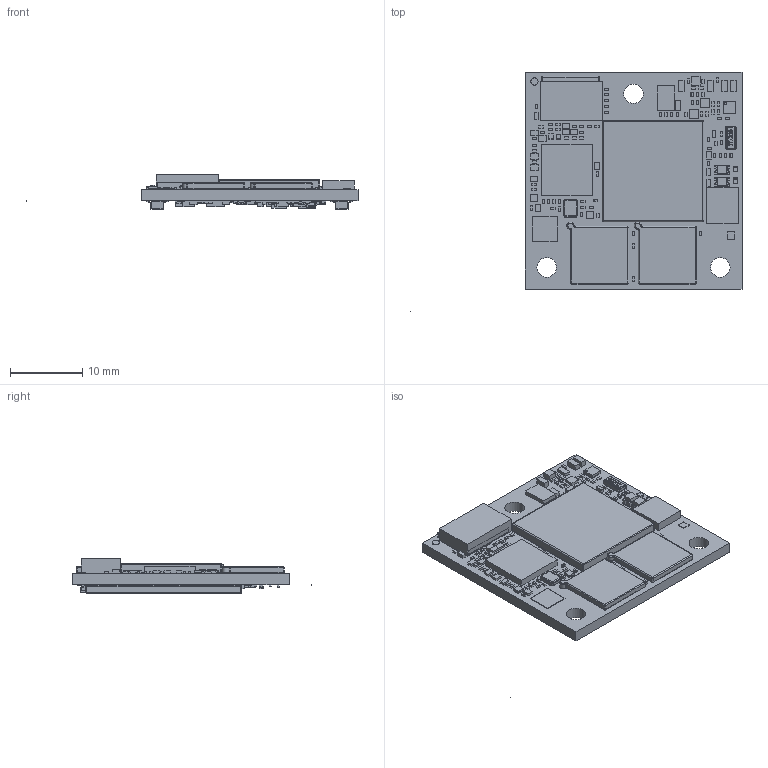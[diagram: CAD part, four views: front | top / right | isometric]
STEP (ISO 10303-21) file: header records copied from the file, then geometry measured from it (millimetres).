
FILE_DESCRIPTION(('STEP AP214'),'1');
FILE_NAME('Board1_BoardAndModels.step','2022-03-04T13:13:29',(' '),(' '),'Spatial InterOp 3D','XD3DPlugin XRACreate',' ');
FILE_SCHEMA(('automotive_design'));
Length unit declared in the file: millimetre
Products named in the file (184): Submodel-N:\GROUP\DEVELOP\HARDWARE\PCM-073_phyCORE-i.MXRT1170\Hardware\Schematics\006\PCB\Layout\3D\Input_S\0201YC101KAZ2A.xtd; 0201YC101KAZ2A; Submodel-CAP3033_part_simplified_0201; DesignRootModel; Submodel-N:\GROUP\DEVELOP\HARDWARE\PCM-073_phyCORE-i.MXRT1170\Hardware\Schematics\006\PCB\Layout\3D\Input_S\JUMP343.xtd; JUMP343; Submodel-JUMP343_part_simplified_J1X3-0201; Submodel-N:\GROUP\DEVELOP\HARDWARE\PCM-073_phyCORE-i.MXRT1170\Hardware\Schematics\006\PCB\Layout\3D\Input_S\CRCW020110R7JNEF.xtd; CRCW020110R7JNEF; Submodel-RES5813_part_simplified_0201; Submodel-N:\GROUP\DEVELOP\HARDWARE\PCM-073_phyCORE-i.MXRT1170\Hardware\Schematics\006\PCB\Layout\3D\Input_S\C0402C270F5GAC_0.xtd; C0402C270F5GAC_0; Submodel-CAP1313_part_simplified_0402-C3; Submodel-N:\GROUP\DEVELOP\HARDWARE\PCM-073_phyCORE-i.MXRT1170\Hardware\Schematics\006\PCB\Layout\3D\Input_S\DIODE1713.xtd; DIODE1713; Submodel-DIODE1713_part_simplified_0201-WLL; Submodel-CAP3713_part_simplified_0201; Submodel-N:\GROUP\DEVELOP\HARDWARE\PCM-073_phyCORE-i.MXRT1170\Hardware\Schematics\006\PCB\Layout\3D\Input_S\GMC10X7R104K100NT.xtd; GMC10X7R104K100NT; Submodel-CAP2603_part_simplified_0603-C3; Submodel-N:\GROUP\DEVELOP\HARDWARE\PCM-073_phyCORE-i.MXRT1170\Hardware\Schematics\006\PCB\Layout\3D\Input_S\RC0603F1005CS.xtd; RC0603F1005CS; Submodel-RES5803_part_simplified_0201; Submodel-N:\GROUP\DEVELOP\HARDWARE\PCM-073_phyCORE-i.MXRT1170\Hardware\Schematics\006\PCB\Layout\3D\Input_S\REMOVE_MECH243.xtd; REMOVE_MECH243; Submodel-MECH243_part_simplified_Fiducial-square; Submodel-RES5673_part_simplified_0201; Submodel-N:\GROUP\DEVELOP\HARDWARE\PCM-073_phyCORE-i.MXRT1170\Hardware\Schematics\006\PCB\Layout\3D\Input_S\TRANSISTOR932.xtd; TRANSISTOR932; Submodel-TRANSISTOR932_part_simplified_DFN-0806-3; Submodel-N:\GROUP\DEVELOP\HARDWARE\PCM-073_phyCORE-i.MXRT1170\Hardware\Schematics\006\PCB\Layout\3D\Input_S\BLM15BD471SN1D.xtd; BLM15BD471SN1D; Submodel-FILTER92_part_simplified_0402-C3; Submodel-RES5643_part_simplified_0201; Submodel-N:\GROUP\DEVELOP\HARDWARE\PCM-073_phyCORE-i.MXRT1170\Hardware\Schematics\006\PCB\Layout\3D\Input_S\REMOVE_MECH233.xtd; REMOVE_MECH233; Submodel-MECH233_part_simplified_Fiducial-round; Submodel-RES5693_part_simplified_0201; Submodel-N:\GROUP\DEVELOP\HARDWARE\PCM-073_phyCORE-i.MXRT1170\Hardware\Schematics\006\PCB\Layout\3D\Input_S\ICGEN3633.xtd; ICGEN3633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
Assembly tree (497 placements, depth 6):
  Board1_BoardAndModels
    DesignRootModel
      Submodel-CAP3033_part_simplified_0201  x5
        Submodel-N:\GROUP\DEVELOP\HARDWARE\PCM-073_phyCORE-i.MXRT1170\Hardware\Schematics\006\PCB\Layout\3D\Input_S\0201YC101KAZ2A.xtd
          0201YC101KAZ2A
      Submodel-JUMP343_part_simplified_J1X3-0201  x10
        Submodel-N:\GROUP\DEVELOP\HARDWARE\PCM-073_phyCORE-i.MXRT1170\Hardware\Schematics\006\PCB\Layout\3D\Input_S\JUMP343.xtd
          JUMP343
      Submodel-RES5813_part_simplified_0201
        Submodel-N:\GROUP\DEVELOP\HARDWARE\PCM-073_phyCORE-i.MXRT1170\Hardware\Schematics\006\PCB\Layout\3D\Input_S\CRCW020110R7JNEF.xtd
          CRCW020110R7JNEF
      Submodel-CAP1313_part_simplified_0402-C3  x16
        Submodel-N:\GROUP\DEVELOP\HARDWARE\PCM-073_phyCORE-i.MXRT1170\Hardware\Schematics\006\PCB\Layout\3D\Input_S\C0402C270F5GAC_0.xtd
          C0402C270F5GAC_0
      Submodel-DIODE1713_part_simplified_0201-WLL  x4
        Submodel-N:\GROUP\DEVELOP\HARDWARE\PCM-073_phyCORE-i.MXRT1170\Hardware\Schematics\006\PCB\Layout\3D\Input_S\DIODE1713.xtd
          DIODE1713
      Submodel-CAP3713_part_simplified_0201  x64
        Submodel-N:\GROUP\DEVELOP\HARDWARE\PCM-073_phyCORE-i.MXRT1170\Hardware\Schematics\006\PCB\Layout\3D\Input_S\0201YC101KAZ2A.xtd
          0201YC101KAZ2A
      Submodel-CAP2603_part_simplified_0603-C3  x7
        Submodel-N:\GROUP\DEVELOP\HARDWARE\PCM-073_phyCORE-i.MXRT1170\Hardware\Schematics\006\PCB\Layout\3D\Input_S\GMC10X7R104K100NT.xtd
          GMC10X7R104K100NT
      Submodel-RES5803_part_simplified_0201  x49
        Submodel-N:\GROUP\DEVELOP\HARDWARE\PCM-073_phyCORE-i.MXRT1170\Hardware\Schematics\006\PCB\Layout\3D\Input_S\RC0603F1005CS.xtd
          RC0603F1005CS
      Submodel-MECH243_part_simplified_Fiducial-square  x2
        Submodel-N:\GROUP\DEVELOP\HARDWARE\PCM-073_phyCORE-i.MXRT1170\Hardware\Schematics\006\PCB\Layout\3D\Input_S\REMOVE_MECH243.xtd
          REMOVE_MECH243
      Submodel-RES5673_part_simplified_0201  x41
        Submodel-N:\GROUP\DEVELOP\HARDWARE\PCM-073_phyCORE-i.MXRT1170\Hardware\Schematics\006\PCB\Layout\3D\Input_S\RC0603F1005CS.xtd
          RC0603F1005CS
      Submodel-TRANSISTOR932_part_simplified_DFN-0806-3  x5
        Submodel-N:\GROUP\DEVELOP\HARDWARE\PCM-073_phyCORE-i.MXRT1170\Hardware\Schematics\006\PCB\Layout\3D\Input_S\TRANSISTOR932.xtd
          TRANSISTOR932
      Submodel-FILTER92_part_simplified_0402-C3  x6
        Submodel-N:\GROUP\DEVELOP\HARDWARE\PCM-073_phyCORE-i.MXRT1170\Hardware\Schematics\006\PCB\Layout\3D\Input_S\BLM15BD471SN1D.xtd
          BLM15BD471SN1D
      Submodel-RES5643_part_simplified_0201  x3
        Submodel-N:\GROUP\DEVELOP\HARDWARE\PCM-073_phyCORE-i.MXRT1170\Hardware\Schematics\006\PCB\Layout\3D\Input_S\RC0603F1005CS.xtd
          RC0603F1005CS
      Submodel-MECH233_part_simplified_Fiducial-round  x2
        Submodel-N:\GROUP\DEVELOP\HARDWARE\PCM-073_phyCORE-i.MXRT1170\Hardware\Schematics\006\PCB\Layout\3D\Input_S\REMOVE_MECH233.xtd
          REMOVE_MECH233
      Submodel-RES5693_part_simplified_0201  x6
        Submodel-N:\GROUP\DEVELOP\HARDWARE\PCM-073_phyCORE-i.MXRT1170\Hardware\Schematics\006\PCB\Layout\3D\Input_S\RC0603F1005CS.xtd
          RC0603F1005CS
      Submodel-ICGEN3633_part_simplified_QFNQ12-40-SLG46110
        Submodel-N:\GROUP\DEVELOP\HARDWARE\PCM-073_phyCORE-i.MXRT1170\Hardware\Schematics\006\PCB\Layout\3D\Input_S\ICGEN3633.xtd
          ICGEN3633
      Submodel-RES5653_part_simplified_0201  x20
        Submodel-N:\GROUP\DEVELOP\HARDWARE\PCM-073_phyCORE-i.MXRT1170\Hardware\Schematics\006\PCB\Layout\3D\Input_S\CRCW020110R7JNEF.xtd
          CRCW020110R7JNEF
      Submodel-CAP2593_part_simplified_0402-1200x600um  x13
        Submodel-N:\GROUP\DEVELOP\HARDWARE\PCM-073_phyCORE-i.MXRT1170\Hardware\Schematics\006\PCB\Layout\3D\Input_S\C0402C270F5GAC_0.xtd
          C0402C270F5GAC_0
      Submodel-OSC843_part_simplified_QQ-2_comma_5x2mm-JXS22
        Submodel-N:\GROUP\DEVELOP\HARDWARE\PCM-073_phyCORE-i.MXRT1170\Hardware\Schematics\006\PCB\Layout\3D\Input_S\OSC843.xtd
          OSC843
      Submodel-LOGIC643_part_simplified_SC70-C3
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Bounding box: 45.9 x 33.15 x 4.76 mm (x, y, z)
Volume: 2094.7 mm3; surface area: 4465.2 mm2
Topology: 479 solids, 479 shells, 6908 faces, 17605 edges, 11542 vertices
Faces by surface type: plane 5378, cylinder 1317, sphere 140, bspline 37, torus 20, cone 16
Full cylindrical faces by diameter (mm): 2.7 x3
Entity records: 180448 total; most frequent: CARTESIAN_POINT 25851, DIRECTION 23356, ORIENTED_EDGE 23208, EDGE_CURVE 11604, LINE 9186, VECTOR 9186, VERTEX_POINT 7672, AXIS2_PLACEMENT_3D 7085
